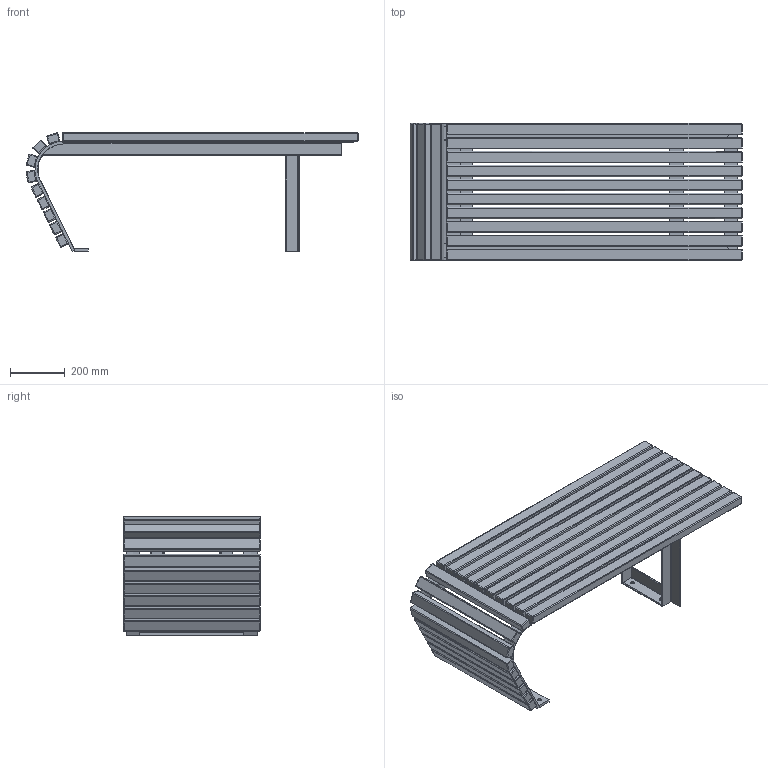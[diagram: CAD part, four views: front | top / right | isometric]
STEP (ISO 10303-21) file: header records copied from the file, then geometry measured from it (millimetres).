
FILE_DESCRIPTION(/* description */ (''),/* implementation_level */ '2;1');
FILE_NAME(/* name */ 'ENV02-F1_UAP_ENVIRON_Bench_3D',/* time_stamp */ '2018-01-23T21:14:18-05:00',/* author */ (''),/* organization */ (''),/* preprocessor_version */ 'ST-DEVELOPER v15',/* originating_system */ '',/* authorisation */ '');
FILE_SCHEMA (('AUTOMOTIVE_DESIGN'));
Length unit declared in the file: millimetre
Products named in the file (1): Document
Bounding box: 1212.82 x 501 x 433 mm (x, y, z)
Volume: 21946603.5 mm3; surface area: 3257804.6 mm2
Topology: 28 solids, 35 shells, 934 faces, 2148 edges, 1096 vertices
Faces by surface type: bspline 734, plane 200
Entity records: 28333 total; most frequent: CARTESIAN_POINT 17004, ORIENTED_EDGE 3816, EDGE_CURVE 1932, VERTEX_POINT 1096, EDGE_LOOP 1064, ADVANCED_FACE 934, FACE_OUTER_BOUND 934, B_SPLINE_CURVE_WITH_KNOTS 397
